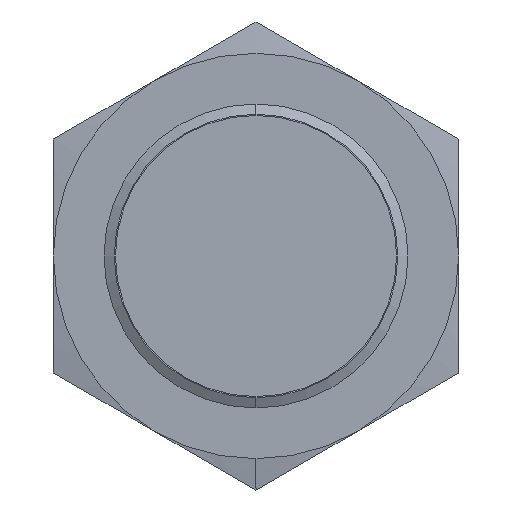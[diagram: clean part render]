
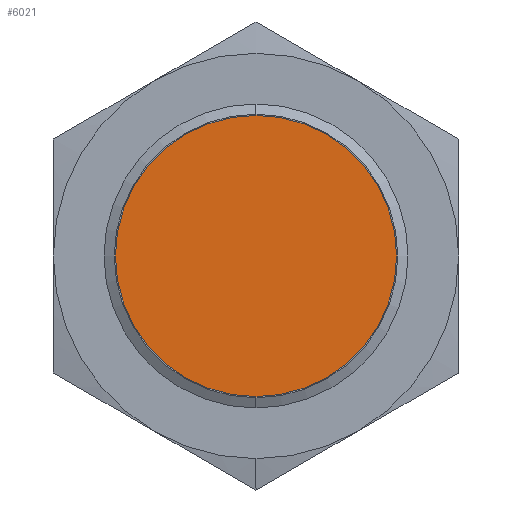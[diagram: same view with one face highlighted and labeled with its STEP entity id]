
A CAD part, left-side view. The second image highlights one B-rep face of the part: STEP entity #6021.
In plain terms, the highlighted planar face has unit normal (-1, 0, 0).
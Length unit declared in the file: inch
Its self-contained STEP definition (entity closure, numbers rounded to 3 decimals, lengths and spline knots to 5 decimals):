
#659 = VERTEX_POINT ( 'NONE', #7081 ) ;
#2969 = CIRCLE ( 'NONE', #2970, 0.3275 ) ;
#2970 = AXIS2_PLACEMENT_3D ( 'NONE', #2971, #2972, #2973 ) ;
#2971 = CARTESIAN_POINT ( 'NONE',  ( 0., 0., 0. ) ) ;
#2972 = DIRECTION ( 'NONE',  ( 1., 0., 0. ) ) ;
#2973 = DIRECTION ( 'NONE',  ( 0., 0., 1. ) ) ;
#3312 = CARTESIAN_POINT ( 'NONE',  ( 0., 0., 0.3275 ) ) ;
#3533 = CIRCLE ( 'NONE', #3536, 0.3275 ) ;
#3536 = AXIS2_PLACEMENT_3D ( 'NONE', #3537, #3538, #3539 ) ;
#3537 = CARTESIAN_POINT ( 'NONE',  ( 0., 0., 0. ) ) ;
#3538 = DIRECTION ( 'NONE',  ( 1., 0., 0. ) ) ;
#3539 = DIRECTION ( 'NONE',  ( 0., 0., 1. ) ) ;
#5391 = ORIENTED_EDGE ( 'NONE', *, *, #8019, .F. ) ;
#5898 = EDGE_LOOP ( 'NONE', ( #5391, #8376 ) ) ;
#6021 = ADVANCED_FACE ( 'NONE', ( #7500 ), #7501, .F. ) ;
#7081 = CARTESIAN_POINT ( 'NONE',  ( 0., 0., -0.3275 ) ) ;
#7500 = FACE_OUTER_BOUND ( 'NONE', #5898, .T. ) ;
#7501 = PLANE ( 'NONE',  #7502 ) ;
#7502 = AXIS2_PLACEMENT_3D ( 'NONE', #7503, #7504, #7505 ) ;
#7503 = CARTESIAN_POINT ( 'NONE',  ( 0., 0., 0. ) ) ;
#7504 = DIRECTION ( 'NONE',  ( 1., 0., 0. ) ) ;
#7505 = DIRECTION ( 'NONE',  ( 0., 0., -1. ) ) ;
#8019 = EDGE_CURVE ( 'NONE', #8397, #659, #2969, .T. ) ;
#8376 = ORIENTED_EDGE ( 'NONE', *, *, #8629, .F. ) ;
#8397 = VERTEX_POINT ( 'NONE', #3312 ) ;
#8629 = EDGE_CURVE ( 'NONE', #659, #8397, #3533, .T. ) ;
